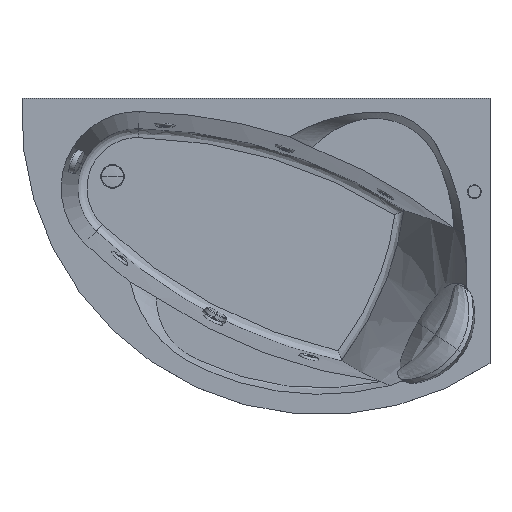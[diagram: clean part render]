
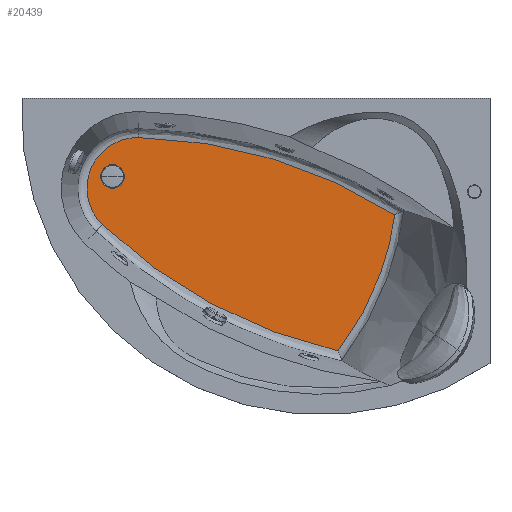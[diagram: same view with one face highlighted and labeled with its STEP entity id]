
A CAD part, top view. The second image highlights one B-rep face of the part: STEP entity #20439.
In plain terms, the highlighted planar face has unit normal (0, 0, 1).
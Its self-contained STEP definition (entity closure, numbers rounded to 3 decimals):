
#19451=CARTESIAN_POINT('',(-304.807,-373.369,-403.));
#19452=VERTEX_POINT('',#19451);
#19466=CARTESIAN_POINT('',(-486.649,-809.507,-403.0));
#19467=VERTEX_POINT('',#19466);
#19468=CARTESIAN_POINT('',(-486.649,-809.507,-403.));
#19469=CARTESIAN_POINT('',(-483.513,-805.493,-403.));
#19470=CARTESIAN_POINT('',(-475.331,-794.842,-403.));
#19471=CARTESIAN_POINT('',(-464.012,-779.323,-403.0));
#19472=CARTESIAN_POINT('',(-450.351,-759.577,-403.0));
#19473=CARTESIAN_POINT('',(-429.434,-727.484,-403.0));
#19474=CARTESIAN_POINT('',(-402.25,-680.187,-403.0));
#19475=CARTESIAN_POINT('',(-376.92,-627.38,-403.0));
#19476=CARTESIAN_POINT('',(-361.224,-589.013,-403.));
#19477=CARTESIAN_POINT('',(-353.14,-567.302,-403.));
#19478=CARTESIAN_POINT('',(-349.42,-556.831,-403.));
#19479=CARTESIAN_POINT('',(-347.071,-550.017,-403.));
#19480=CARTESIAN_POINT('',(-345.273,-544.719,-403.));
#19481=CARTESIAN_POINT('',(-342.938,-537.608,-403.));
#19482=CARTESIAN_POINT('',(-340.007,-528.451,-403.));
#19483=CARTESIAN_POINT('',(-336.133,-515.84,-403.));
#19484=CARTESIAN_POINT('',(-332.414,-503.093,-403.));
#19485=CARTESIAN_POINT('',(-328.596,-489.268,-403.));
#19486=CARTESIAN_POINT('',(-322.455,-465.841,-403.));
#19487=CARTESIAN_POINT('',(-314.416,-430.791,-403.));
#19488=CARTESIAN_POINT('',(-308.221,-396.371,-403.));
#19489=CARTESIAN_POINT('',(-305.353,-377.173,-403.));
#19490=CARTESIAN_POINT('',(-304.807,-373.369,-403.));
#19491=B_SPLINE_CURVE_WITH_KNOTS('',3,(#19468,#19469,#19470,#19471,#19472,#19473,#19474,#19475,#19476,#19477,#19478,#19479,#19480,#19481,#19482,#19483,#19484,#19485,#19486,#19487,#19488,#19489,#19490),.UNSPECIFIED.,.F.,.U.,(4,1,1,1,1,1,1,1,1,1,1,1,1,1,1,1,1,1,1,1,4),(18.05,33.333,58.34,75.668,105.362,173.246,239.205,280.951,297.573,308.705,314.287,319.194,325.49,336.741,348.036,365.07,376.573,391.063,437.723,484.424,495.953),.UNSPECIFIED.);
#19492=EDGE_CURVE('',#19467,#19452,#19491,.T.);
#19632=CARTESIAN_POINT('',(-1241.679,-405.136,-403.));
#19633=VERTEX_POINT('',#19632);
#19634=CARTESIAN_POINT('',(-136.769,750.848,-403.));
#19635=DIRECTION('',(0.,0.,1.0));
#19636=DIRECTION('',(-0.691,-0.723,0.));
#19637=AXIS2_PLACEMENT_3D('',#19634,#19635,#19636);
#19638=CIRCLE('',#19637,1599.102);
#19639=EDGE_CURVE('',#19633,#19467,#19638,.T.);
#19712=CARTESIAN_POINT('',(-1126.06,-125.576,-403.));
#19713=VERTEX_POINT('',#19712);
#19721=CARTESIAN_POINT('',(-1160.429,-1724.308,-403.));
#19722=DIRECTION('',(0.,0.,1.));
#19723=DIRECTION('',(0.021,1.,0.));
#19724=AXIS2_PLACEMENT_3D('',#19721,#19722,#19723);
#19725=CIRCLE('',#19724,1599.102);
#19726=EDGE_CURVE('',#19452,#19713,#19725,.T.);
#20041=CARTESIAN_POINT('',(-1129.548,-287.822,-403.));
#20042=DIRECTION('',(0.,0.,1.0));
#20043=DIRECTION('',(0.021,1.,0.));
#20044=AXIS2_PLACEMENT_3D('',#20041,#20042,#20043);
#20045=CIRCLE('',#20044,162.283);
#20046=EDGE_CURVE('',#19713,#19633,#20045,.T.);
#20366=CARTESIAN_POINT('',(-1248.191,-250.,-403.));
#20367=VERTEX_POINT('',#20366);
#20374=CARTESIAN_POINT('',(-1171.809,-250.,-403.));
#20375=VERTEX_POINT('',#20374);
#20376=CARTESIAN_POINT('',(-1210.0,-250.,-403.));
#20377=DIRECTION('',(0.,0.,1.0));
#20378=DIRECTION('',(-1.0,0.,0.0));
#20379=AXIS2_PLACEMENT_3D('',#20376,#20377,#20378);
#20380=CIRCLE('',#20379,38.191);
#20381=EDGE_CURVE('',#20367,#20375,#20380,.T.);
#20413=CARTESIAN_POINT('',(-1210.0,-250.,-403.));
#20414=DIRECTION('',(0.,0.,1.0));
#20415=DIRECTION('',(-1.0,0.,0.0));
#20416=AXIS2_PLACEMENT_3D('',#20413,#20414,#20415);
#20417=CIRCLE('',#20416,38.191);
#20418=EDGE_CURVE('',#20375,#20367,#20417,.T.);
#20424=CARTESIAN_POINT('',(-571.756,-955.796,-403.0));
#20425=DIRECTION('',(0.0,0.0,1.0));
#20426=DIRECTION('',(0.601,0.799,0.0));
#20427=AXIS2_PLACEMENT_3D('',#20424,#20425,#20426);
#20428=PLANE('',#20427);
#20429=ORIENTED_EDGE('',*,*,#20046,.T.);
#20430=ORIENTED_EDGE('',*,*,#19639,.T.);
#20431=ORIENTED_EDGE('',*,*,#19492,.T.);
#20432=ORIENTED_EDGE('',*,*,#19726,.T.);
#20433=EDGE_LOOP('',(#20429,#20430,#20431,#20432));
#20434=FACE_OUTER_BOUND('',#20433,.T.);
#20435=ORIENTED_EDGE('',*,*,#20418,.F.);
#20436=ORIENTED_EDGE('',*,*,#20381,.F.);
#20437=EDGE_LOOP('',(#20435,#20436));
#20438=FACE_BOUND('',#20437,.T.);
#20439=ADVANCED_FACE('',(#20434,#20438),#20428,.T.);
